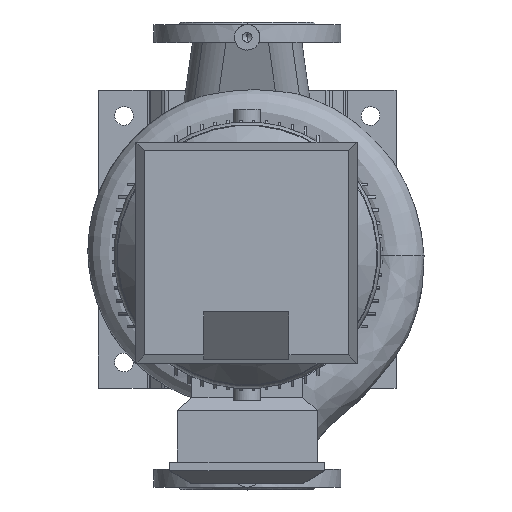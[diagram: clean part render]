
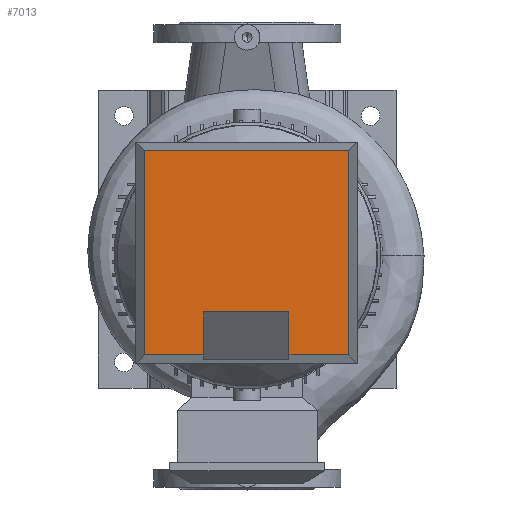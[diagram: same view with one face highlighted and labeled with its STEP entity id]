
A CAD part, top view. The second image highlights one B-rep face of the part: STEP entity #7013.
In plain terms, the highlighted planar face has unit normal (0, 0, 1) as drawn and (0, 1, 0) by its records, which use the part's own axes.
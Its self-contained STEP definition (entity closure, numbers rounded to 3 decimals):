
#7013=ADVANCED_FACE('',(#14444),#14445,.T.);
#7023=EDGE_CURVE('',#14460,#14457,#14461,.T.);
#14444=FACE_OUTER_BOUND('',#24716,.T.);
#14445=PLANE('',#24717);
#14457=VERTEX_POINT('',#24730);
#14460=VERTEX_POINT('',#24735);
#14461=LINE('',#24736,#24737);
#24716=EDGE_LOOP('',(#43446,#43447,#43448,#43449,#43450,#43451,#43452,#43453));
#24717=AXIS2_PLACEMENT_3D('',#43454,#43455,#43456);
#24730=CARTESIAN_POINT('',(-50.0,90.0,199.485));
#24735=CARTESIAN_POINT('',(-50.0,90.0,250.0));
#24736=CARTESIAN_POINT('',(-50.0,90.0,127.834));
#24737=VECTOR('',#43482,1.0);
#43446=ORIENTED_EDGE('',*,*,#50166,.T.);
#43447=ORIENTED_EDGE('',*,*,#50172,.F.);
#43448=ORIENTED_EDGE('',*,*,#50180,.F.);
#43449=ORIENTED_EDGE('',*,*,#50182,.F.);
#43450=ORIENTED_EDGE('',*,*,#50174,.F.);
#43451=ORIENTED_EDGE('',*,*,#50168,.F.);
#43452=ORIENTED_EDGE('',*,*,#7023,.T.);
#43453=ORIENTED_EDGE('',*,*,#50162,.T.);
#43454=CARTESIAN_POINT('',(0.0,90.0,0.0));
#43455=DIRECTION('',(0.0,1.0,-0.0));
#43456=DIRECTION('',(-1.0,0.0,0.0));
#43482=DIRECTION('',(0.0,-0.0,-1.0));
#50162=EDGE_CURVE('',#14457,#59839,#59842,.T.);
#50166=EDGE_CURVE('',#59839,#59845,#59847,.T.);
#50168=EDGE_CURVE('',#14460,#59849,#59850,.T.);
#50172=EDGE_CURVE('',#59855,#59845,#59857,.T.);
#50174=EDGE_CURVE('',#59849,#59859,#59860,.T.);
#50180=EDGE_CURVE('',#59865,#59855,#59867,.T.);
#50182=EDGE_CURVE('',#59859,#59865,#59869,.T.);
#59839=VERTEX_POINT('',#80711);
#59842=LINE('',#80715,#80716);
#59845=VERTEX_POINT('',#80720);
#59847=LINE('',#80723,#80724);
#59849=VERTEX_POINT('',#80726);
#59850=LINE('',#80727,#80728);
#59855=VERTEX_POINT('',#80735);
#59857=LINE('',#80738,#80739);
#59859=VERTEX_POINT('',#80741);
#59860=LINE('',#80742,#80743);
#59865=VERTEX_POINT('',#80751);
#59867=LINE('',#80754,#80755);
#59869=LINE('',#80757,#80758);
#80711=CARTESIAN_POINT('',(50.0,90.0,199.485));
#80715=CARTESIAN_POINT('',(-25.0,90.0,199.485));
#80716=VECTOR('',#86497,1.0);
#80720=CARTESIAN_POINT('',(50.0,90.0,250.0));
#80723=CARTESIAN_POINT('',(50.0,90.0,127.834));
#80724=VECTOR('',#86500,1.0);
#80726=CARTESIAN_POINT('',(-120.0,90.0,250.0));
#80727=CARTESIAN_POINT('',(65.0,90.0,250.0));
#80728=VECTOR('',#86501,1.0);
#80735=CARTESIAN_POINT('',(120.0,90.0,250.0));
#80738=CARTESIAN_POINT('',(65.0,90.0,250.0));
#80739=VECTOR('',#86505,1.0);
#80741=CARTESIAN_POINT('',(-120.0,90.0,10.0));
#80742=CARTESIAN_POINT('',(-120.0,90.0,0.0));
#80743=VECTOR('',#86506,1.0);
#80751=CARTESIAN_POINT('',(120.0,90.0,10.0));
#80754=CARTESIAN_POINT('',(120.0,90.0,0.0));
#80755=VECTOR('',#86511,1.0);
#80757=CARTESIAN_POINT('',(65.0,90.0,10.0));
#80758=VECTOR('',#86512,1.0);
#86497=DIRECTION('',(1.0,0.0,0.0));
#86500=DIRECTION('',(-0.0,0.0,1.0));
#86501=DIRECTION('',(-1.0,0.0,-0.0));
#86505=DIRECTION('',(-1.0,0.0,-0.0));
#86506=DIRECTION('',(-0.0,-0.0,-1.0));
#86511=DIRECTION('',(-0.0,0.0,1.0));
#86512=DIRECTION('',(1.0,-0.0,-0.0));
